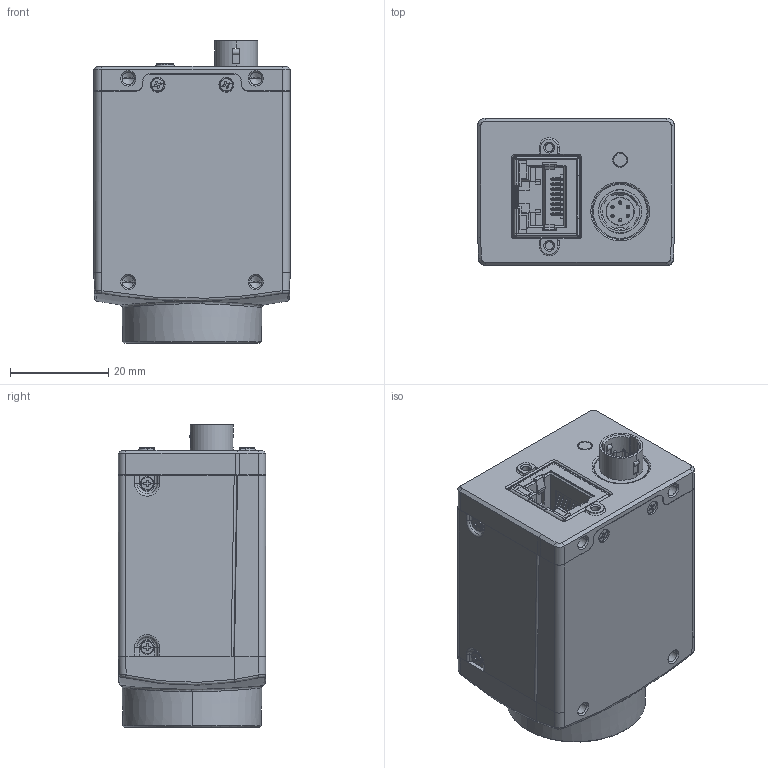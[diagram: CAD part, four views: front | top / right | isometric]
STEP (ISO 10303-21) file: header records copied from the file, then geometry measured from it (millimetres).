
FILE_DESCRIPTION((''),'2;1');
FILE_NAME('OPT-CD1___SW0002','2024-10-25T11:21:09',('optba'),(''),'CREO PARAMETRIC BY PTC INC, 2020354','CREO PARAMETRIC BY PTC INC, 2020354','');
FILE_SCHEMA(('CONFIG_CONTROL_DESIGN','SHAPE_APPEARANCE_LAYERS_GROUPS'));
Length unit declared in the file: millimetre
Products named in the file (1): OPT-CD1___SW0002
Bounding box: 40 x 30 x 61.7 mm (x, y, z)
Volume: 55390.3 mm3; surface area: 15072.6 mm2
Topology: 1 solids, 1 shells, 1096 faces, 2993 edges, 1895 vertices
Faces by surface type: plane 590, cylinder 281, cone 111, bspline 60, torus 36, sphere 16, extrusion 2
Entity records: 39344 total; most frequent: CARTESIAN_POINT 11749, ORIENTED_EDGE 5946, DIRECTION 5533, EDGE_CURVE 2973, VERTEX_POINT 1895, VECTOR 1869, LINE 1867, AXIS2_PLACEMENT_3D 1832
